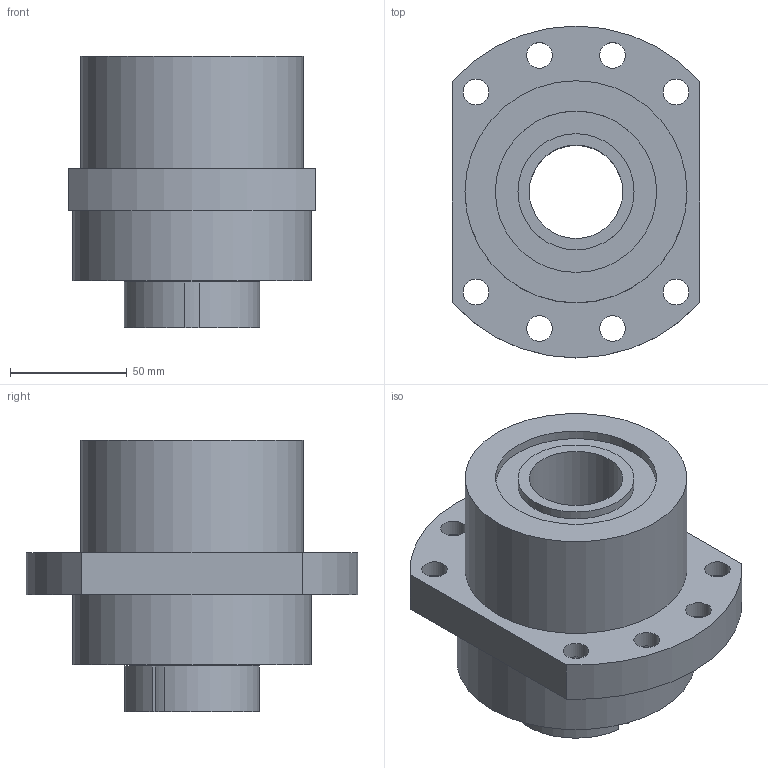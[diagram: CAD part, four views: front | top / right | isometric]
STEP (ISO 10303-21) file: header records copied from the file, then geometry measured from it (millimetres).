
FILE_DESCRIPTION(/* description */ (''),/* implementation_level */ '2;1');
FILE_NAME(/* name */ 'C:\Users\tenki620635\Desktop\官網\圖面\軸承座\3D\setp檔\WBK40 DFF.stp',/* time_stamp */ '2020-12-21T09:59:31+08:00',/* author */ ('tenki620635'),/* organization */ (''),/* preprocessor_version */ 'ST-DEVELOPER v15.2',/* originating_system */ 'Autodesk Inventor 2014',/* authorisation */ '');
FILE_SCHEMA (('AUTOMOTIVE_DESIGN { 1 0 10303 214 3 1 1 }'));
Length unit declared in the file: millimetre
Products named in the file (1): WBK40 DFF-Atype
Bounding box: 106 x 142 x 116 mm (x, y, z)
Volume: 693231.7 mm3; surface area: 84087.9 mm2
Topology: 1 solids, 1 shells, 58 faces, 120 edges, 80 vertices
Faces by surface type: cylinder 32, plane 26
Full cylindrical faces by diameter (mm): 11 x8, 17.5 x8, 40 x1, 49.7 x2, 52 x1, 69 x2, 95 x1, 102 x1
Entity records: 1505 total; most frequent: DIRECTION 278, CARTESIAN_POINT 235, ORIENTED_EDGE 192, AXIS2_PLACEMENT_3D 123, EDGE_LOOP 116, EDGE_CURVE 96, VERTEX_POINT 80, FACE_BOUND 65
